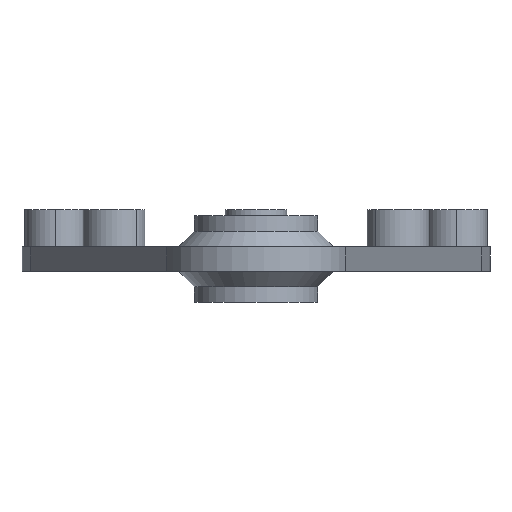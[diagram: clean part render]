
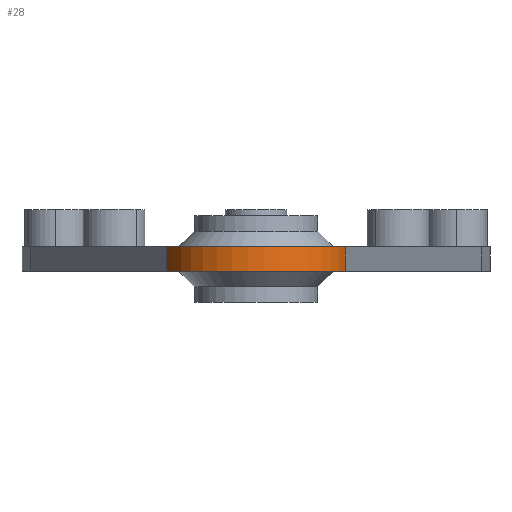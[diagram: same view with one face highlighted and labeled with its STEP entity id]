
A CAD part, front view. The second image highlights one B-rep face of the part: STEP entity #28.
In plain terms, the highlighted cylindrical face has radius 15 mm (diameter 30 mm), a partial arc.
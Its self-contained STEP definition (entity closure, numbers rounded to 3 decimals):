
#28=ADVANCED_FACE('',(#72),#728,.T.);
#72=FACE_OUTER_BOUND('',#116,.T.);
#116=EDGE_LOOP('',(#181,#182,#183,#184));
#181=ORIENTED_EDGE('',*,*,#394,.T.);
#182=ORIENTED_EDGE('',*,*,#377,.T.);
#183=ORIENTED_EDGE('',*,*,#395,.T.);
#184=ORIENTED_EDGE('',*,*,#382,.T.);
#377=EDGE_CURVE('',#657,#659,#623,.T.);
#382=EDGE_CURVE('',#663,#662,#626,.T.);
#394=EDGE_CURVE('',#662,#657,#491,.T.);
#395=EDGE_CURVE('',#659,#663,#492,.T.);
#491=TRIMMED_CURVE($,#561,(#1443),(#1444),.T.,.CARTESIAN.);
#492=TRIMMED_CURVE($,#562,(#1446),(#1447),.T.,.CARTESIAN.);
#561=CIRCLE('',#994,15.);
#562=CIRCLE('',#995,15.);
#623=B_SPLINE_CURVE_WITH_KNOTS('',1,(#1397,#1398),.UNSPECIFIED.,.F.,.F.,
(2,2),(-4.,0.),.UNSPECIFIED.);
#626=B_SPLINE_CURVE_WITH_KNOTS('',1,(#1409,#1410),.UNSPECIFIED.,.F.,.F.,
(2,2),(-4.,0.),.UNSPECIFIED.);
#657=VERTEX_POINT('',#1326);
#659=VERTEX_POINT('',#1328);
#662=VERTEX_POINT('',#1331);
#663=VERTEX_POINT('',#1332);
#728=CYLINDRICAL_SURFACE('',#947,15.);
#947=AXIS2_PLACEMENT_3D('',#1249,#1063,$);
#994=AXIS2_PLACEMENT_3D($,#1442,#1121,#1122);
#995=AXIS2_PLACEMENT_3D($,#1445,#1123,#1124);
#1063=DIRECTION('',(0.,0.,-1.));
#1121=DIRECTION('',(0.,0.,1.));
#1122=DIRECTION('',(-0.963,-0.271,0.));
#1123=DIRECTION('',(0.,0.,-1.));
#1124=DIRECTION('',(0.963,-0.271,0.));
#1249=CARTESIAN_POINT('',(0.,-85.,0.));
#1326=CARTESIAN_POINT('',(14.44,-89.059,-2.));
#1328=CARTESIAN_POINT('',(14.44,-89.059,2.));
#1331=CARTESIAN_POINT('',(-14.44,-89.059,-2.));
#1332=CARTESIAN_POINT('',(-14.44,-89.059,2.));
#1397=CARTESIAN_POINT('',(14.44,-89.059,-2.));
#1398=CARTESIAN_POINT('',(14.44,-89.059,2.));
#1409=CARTESIAN_POINT('',(-14.44,-89.059,2.));
#1410=CARTESIAN_POINT('',(-14.44,-89.059,-2.));
#1442=CARTESIAN_POINT('',(0.,-85.,-2.));
#1443=CARTESIAN_POINT('',(-14.44,-89.059,-2.));
#1444=CARTESIAN_POINT('',(14.44,-89.059,-2.));
#1445=CARTESIAN_POINT('',(0.,-85.,2.));
#1446=CARTESIAN_POINT('',(14.44,-89.059,2.));
#1447=CARTESIAN_POINT('',(-14.44,-89.059,2.));
